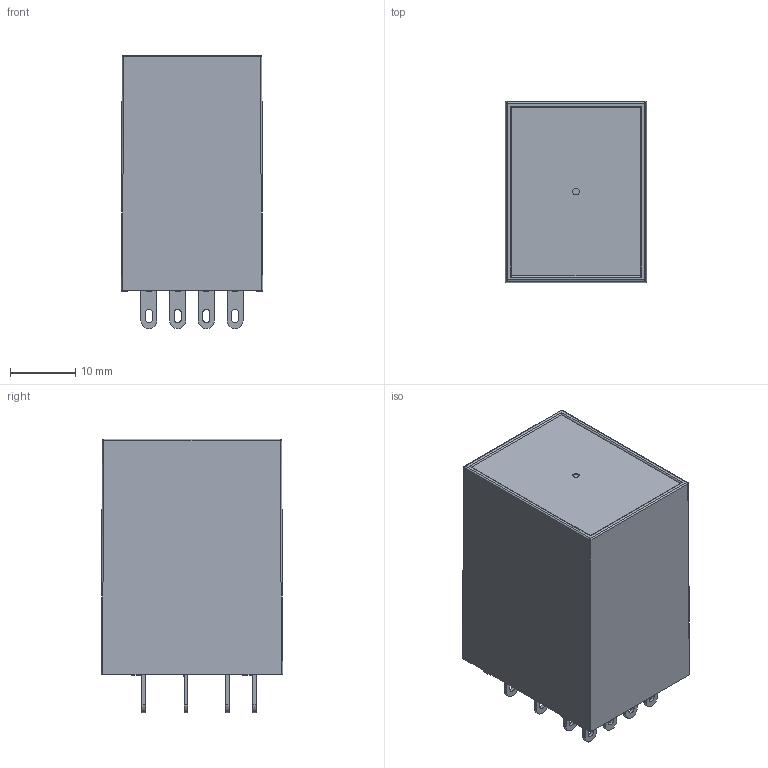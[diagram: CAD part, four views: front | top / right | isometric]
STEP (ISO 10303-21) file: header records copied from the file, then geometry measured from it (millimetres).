
FILE_DESCRIPTION (( 'STEP AP203' ), '1' );
FILE_NAME ('68B4Z遵褐躇猾倰.STEP', '2019-03-14T02:35:50', ( 'XiaZaiMa.COM' ), ( 'Win10NeT.COM' ), 'SwSTEP 2.0', 'SolidWorks 2014', '' );
FILE_SCHEMA (( 'CONFIG_CONTROL_DESIGN' ));
Length unit declared in the file: millimetre
Products named in the file (23): 68B4Z遵褐噙え; 68B4Z雄銅え; 68A2Z线圈架; 68B遵褐諉盄え; 68B4Z三复合动点; 68A2Z盄婁; 68B4Z遵褐躇猾倰; 68A2Z橈埽え; 68A2ZDC沺郋; 68A2Z玴沺DC; 68B4Z线圈引线脚; 68A2Z傻穩隊; 68B4Z线圈引线脚右; 68B4Z躇猾倰價釱; 68B4Z雄銅郪璃; 棠繚郪璃; 68B2Z噙萸; 嶺銅; 13F蹟佪; 穩萸綴銅え; 68A2Z躇猾倰俋褲; 68B4Z雄輸; 68A2ZDC濎沺
Assembly tree (45 placements, depth 3):
  68B4Z遵褐躇猾倰
    68B4Z躇猾倰價釱
    穩萸綴銅え  x8
      68B2Z噙萸
    棠繚郪璃
      68A2ZDC濎沺
      68A2Z线圈架
      68A2Z盄婁
      68A2ZDC沺郋
      68B4Z线圈引线脚
      68B4Z线圈引线脚右
    13F蹟佪
    68B4Z雄銅郪璃
      68B4Z雄輸
      68B4Z雄銅え
      68B4Z三复合动点  x4
      68A2Z橈埽え
      68A2Z玴沺DC
      68A2Z傻穩隊  x2
    嶺銅
    68A2Z躇猾倰俋褲
    68B4Z遵褐噙え  x8
    68B遵褐諉盄え  x6
Bounding box: 21.7 x 27.8 x 41.9 mm (x, y, z)
Volume: 11089 mm3; surface area: 19854.2 mm2
Topology: 45 solids, 45 shells, 3032 faces, 7773 edges, 4938 vertices
Faces by surface type: plane 1935, cylinder 817, torus 158, bspline 43, sphere 40, cone 39
Entity records: 70368 total; most frequent: CARTESIAN_POINT 16946, ORIENTED_EDGE 10570, DIRECTION 10428, EDGE_CURVE 5285, LINE 3732, VECTOR 3732, AXIS2_PLACEMENT_3D 3348, VERTEX_POINT 3318
